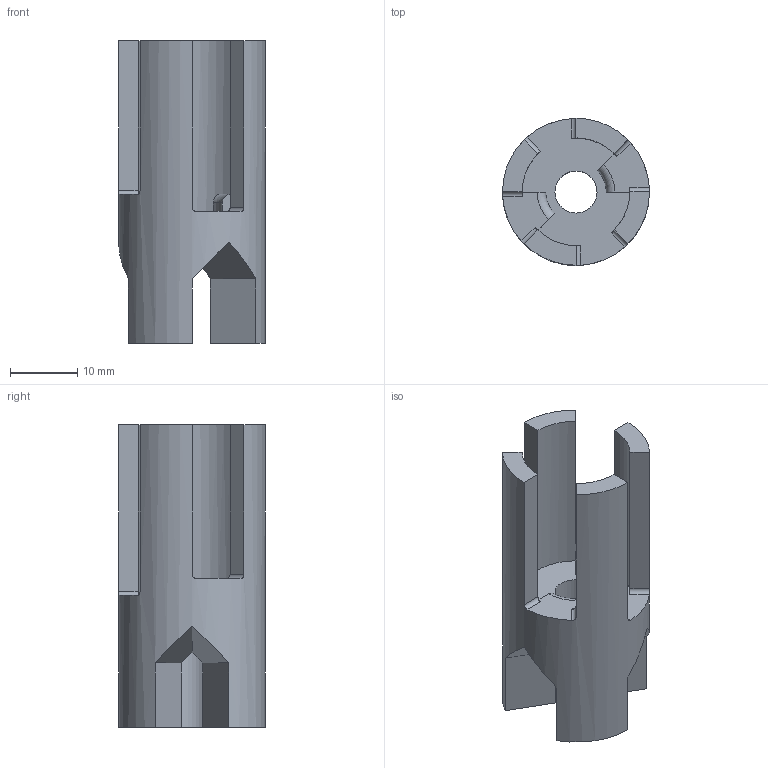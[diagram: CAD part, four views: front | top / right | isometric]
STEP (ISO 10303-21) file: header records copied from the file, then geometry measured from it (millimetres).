
FILE_DESCRIPTION(/* description */ (''),/* implementation_level */ '2;1');
FILE_NAME(/* name */ 'D:\Downloads\Project-ButWhatAbout-ECM-9x19-Barrel-DIY-V1-Package (3)\Revised Components\asdf\ECM CAD\STEP\Boring End Pilot Metric (6mm).stp',/* time_stamp */ '2021-02-15T01:38:12-06:00',/* author */ ('johne'),/* organization */ (''),/* preprocessor_version */ 'ST-DEVELOPER v18',/* originating_system */ 'Autodesk Inventor 2020',/* authorisation */ '');
FILE_SCHEMA (('AUTOMOTIVE_DESIGN { 1 0 10303 214 3 1 1 }'));
Length unit declared in the file: millimetre
Products named in the file (1): End Pilot for 6mm Rod v2
Bounding box: 21.84 x 21.84 x 45.02 mm (x, y, z)
Volume: 7156.4 mm3; surface area: 4573 mm2
Topology: 1 solids, 1 shells, 55 faces, 161 edges, 107 vertices
Faces by surface type: plane 37, cylinder 16, torus 2
Full cylindrical faces by diameter (mm): 6.25 x1, 21.844 x1
Entity records: 1998 total; most frequent: CARTESIAN_POINT 468, ORIENTED_EDGE 322, DIRECTION 311, EDGE_CURVE 161, AXIS2_PLACEMENT_3D 110, VERTEX_POINT 107, LINE 91, VECTOR 91
